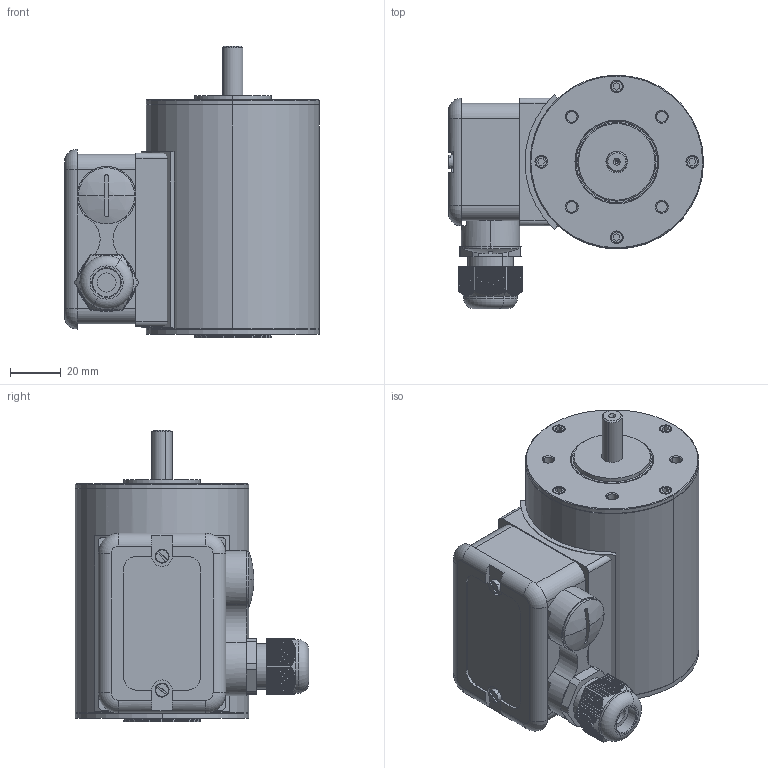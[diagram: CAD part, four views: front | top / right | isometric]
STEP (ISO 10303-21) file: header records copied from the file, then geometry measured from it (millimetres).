
FILE_DESCRIPTION (( 'STEP AP214' ), '1' );
FILE_NAME ('KD642.STEP', '2012-04-16T12:53:10', ( ' ' ), ( '' ), 'SwSTEP 2.0', 'SolidWorks 2010', '' );
FILE_SCHEMA (( 'AUTOMOTIVE_DESIGN' ));
Length unit declared in the file: millimetre
Products named in the file (16): 918088002; 918083010; 912834000; 912744002; 937205002; 918088000; 951156003; 951120003; 953440011; 931016006; 937201020; 937202011; 951124003; 935285000_KD 6; KD642; 912814000
Assembly tree (25 placements, depth 3):
  KD642
    951124003  x8
    912834000
    931016006
    953440011  x2
    918083010
      918088002
      951120003  x2
      951156003  x2
      937201020
      918088000
      937205002
      937202011
    912814000
    912744002
    935285000_KD 6
Bounding box: 100 x 91.5 x 114.5 mm (x, y, z)
Volume: 141791.1 mm3; surface area: 116290.9 mm2
Topology: 24 solids, 30 shells, 1148 faces, 2901 edges, 1843 vertices
Faces by surface type: plane 491, cylinder 421, cone 154, torus 80, sphere 2
Entity records: 32054 total; most frequent: CARTESIAN_POINT 6957, DIRECTION 4948, ORIENTED_EDGE 4914, EDGE_CURVE 2457, AXIS2_PLACEMENT_3D 1884, VERTEX_POINT 1570, VECTOR 1180, LINE 1180
